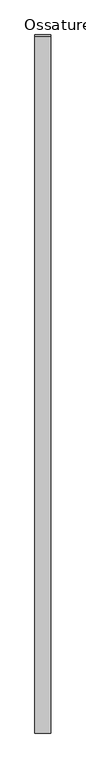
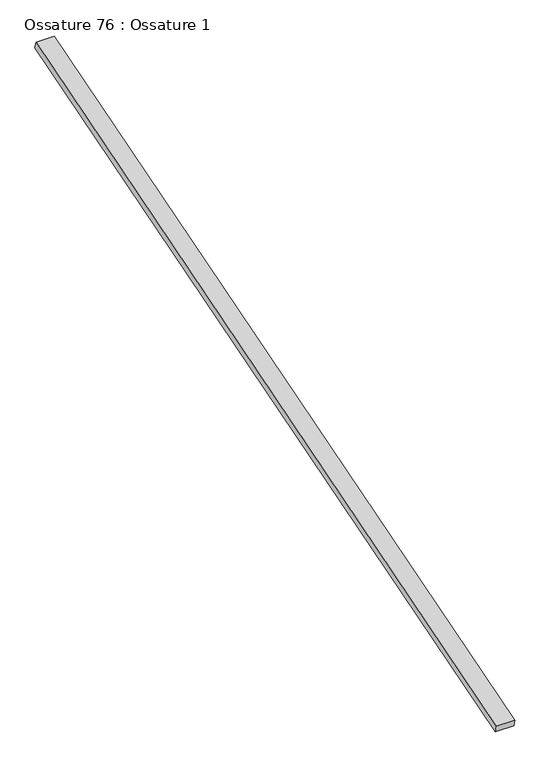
"""IFC4 building model written with IfcOpenShell, lengths in millimetres: beam geometry, Ossature 76 : Ossature 1."""

from ifc_helpers import new_model, si_unit, frame, origin, place, context, project, spatial, polyline, outline, extrude, source, transform, mapped, element, save


def ossature_76_ossature_1_ea7d576b(model_context):
    return source(origin(), model_context, "Body", "SweptSolid", [
        extrude(outline(polyline([(0.0, 0.0), (0.0, -4543.0299679), (-100.0, -4543.0299679), (-100.0, 0.0), (0.0, 0.0)])), frame((18388.4466393, -833.3913565, 8153.6336115), z_axis=(0.0, -0.28734788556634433, 0.9578262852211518), x_axis=(-1.0, 0.0, 0.0)), (0.0, 0.0, 1.0), 40.0),
    ])


if __name__ == "__main__":
    model = new_model("IFC4")
    model_context = context("Model", 3, world=origin())
    ifc_project = project(units=[si_unit("LENGTHUNIT", "METRE", prefix="MILLI")], contexts=[model_context])
    site = spatial("IfcSite", under=ifc_project)
    building = spatial("IfcBuilding", under=site)
    placement = place(None, origin())
    ossature_76_ossature_1_shape = ossature_76_ossature_1_ea7d576b(model_context)
    element("IfcBeam", 1, ObjectType="Ossature 76 : Ossature 1", at=placement, inside=building, context=model_context, shape_type="MappedRepresentation", body=[
        mapped(ossature_76_ossature_1_shape, transform((0.0, 0.0, 0.0), x_axis=(1.0, 0.0, 0.0), y_axis=(0.0, 1.0, 0.0), z_axis=(0.0, 0.0, 1.0))),
    ])
    save(model, "model.ifc")
